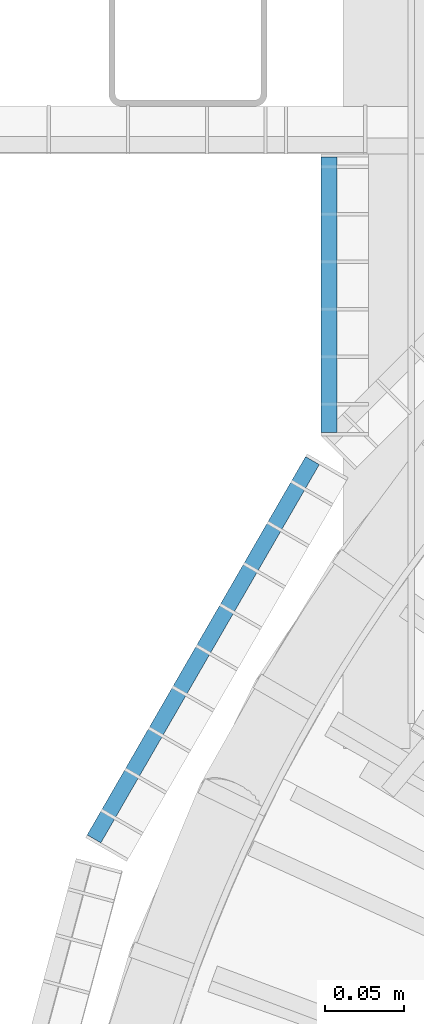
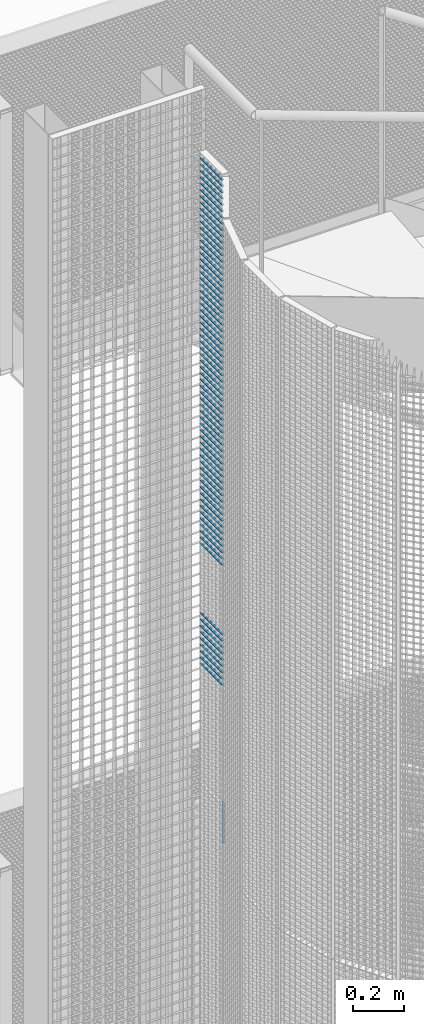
# One storey, part 181 of 1148: 72 beams, 2 elements without a shape of their own.
"""IFC2X3 building model written with IfcOpenShell, lengths in millimetres."""

from ifc_helpers import new_model, si_unit, frame, origin_with_axes, origin_2d_with_axis, place, context, subcontext, project, spatial, rectangle, extrude, material, type_object, element, aggregate, save


model = new_model("IFC2X3")

# Units and contexts
model_context = context("Model", 3, precision=1e-05, world=origin_with_axes())
body_context = subcontext(model_context, "Body", "Model", "MODEL_VIEW")
ifc_project = project(units=[si_unit("LENGTHUNIT", "METRE", prefix="MILLI"), si_unit("AREAUNIT", "SQUARE_METRE"), si_unit("VOLUMEUNIT", "CUBIC_METRE"), si_unit("MASSUNIT", "GRAM", prefix="KILO"), si_unit("TIMEUNIT", "SECOND"), si_unit("PLANEANGLEUNIT", "RADIAN"), si_unit("SOLIDANGLEUNIT", "STERADIAN"), si_unit("THERMODYNAMICTEMPERATUREUNIT", "DEGREE_CELSIUS"), si_unit("LUMINOUSINTENSITYUNIT", "LUMEN")], contexts=[model_context])

# Site, building, storey
site_placement = place(None, origin_with_axes())
site = spatial("IfcSite", under=ifc_project, at=site_placement, Name="Undefined", CompositionType="ELEMENT")
building_placement = place(site_placement, origin_with_axes())
building = spatial("IfcBuilding", under=site, at=building_placement, Name="Undefined", CompositionType="ELEMENT")
storey_placement = place(building_placement, origin_with_axes())
storey = spatial("IfcBuildingStorey", under=building, at=storey_placement, Name="Undefined", CompositionType="ELEMENT", Elevation=0.0)

# Assembly, beam
assembly_1_placement = place(storey_placement, origin_with_axes())
assembly_1 = element("IfcElementAssembly", 1, at=assembly_1_placement, inside=storey, Name="BORDURE", AssemblyPlace="NOTDEFINED", PredefinedType="NOTDEFINED")
ifc_material = material(Name="STEEL/S235JR")
beam_type = type_object("IfcBeamType", Name="PL2*10", PredefinedType="NOTDEFINED")
beam_1_placement = place(assembly_1_placement, frame((-895.30396491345, 676.248044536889, 15030.0), z_axis=(-0.866025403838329, 0.499999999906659, 0.0), x_axis=(-0.49999999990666, -0.866025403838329, 0.0)))
beam_1 = element("IfcBeam", 2, at=beam_1_placement, type_object=beam_type, material=ifc_material, Name="ENTRETOISE", context=body_context, shape_type="SweptSolid", body=[
    extrude(rectangle(XDim=2.0, YDim=10.0, at=origin_2d_with_axis()), frame((275.999999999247, 9.09494701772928e-13, 1.53210777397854e-14), z_axis=(-1.0, 0.0, 0.0), x_axis=(0.0, -1.0, 0.0)), (0.0, 0.0, 1.0), 276.0),
])
aggregate(assembly_1, [beam_1])

# Assembly, beams
assembly_2_placement = place(storey_placement, origin_with_axes())
assembly_2 = element("IfcElementAssembly", 3, at=assembly_2_placement, inside=storey, Name="BORDURE", AssemblyPlace="NOTDEFINED", PredefinedType="NOTDEFINED")
beam_2_placement = place(assembly_2_placement, frame((-884.882567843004, 867.997017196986, 17970.0), z_axis=(-1.0, 0.0, 0.0), x_axis=(0.0, -1.0, 0.0)))
beam_2 = element("IfcBeam", 4, at=beam_2_placement, type_object=beam_type, material=ifc_material, Name="ENTRETOISE", context=body_context, shape_type="SweptSolid", body=[
    extrude(rectangle(XDim=2.0, YDim=10.0, at=origin_2d_with_axis()), frame((174.109999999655, 0.0, 0.0), z_axis=(-1.0, 0.0, 0.0), x_axis=(0.0, -1.0, 0.0)), (0.0, 0.0, 1.0), 174.11),
])
beam_3_placement = place(assembly_2_placement, frame((-884.882567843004, 867.997017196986, 17940.0), z_axis=(-1.0, 0.0, 0.0), x_axis=(0.0, -1.0, 0.0)))
beam_3 = element("IfcBeam", 5, at=beam_3_placement, type_object=beam_type, material=ifc_material, Name="ENTRETOISE", context=body_context, shape_type="SweptSolid", body=[
    extrude(rectangle(XDim=2.0, YDim=10.0, at=origin_2d_with_axis()), frame((174.109999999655, 0.0, 0.0), z_axis=(-1.0, 0.0, 0.0), x_axis=(0.0, -1.0, 0.0)), (0.0, 0.0, 1.0), 174.11),
])
beam_4_placement = place(assembly_2_placement, frame((-884.882567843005, 867.997017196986, 17910.0), z_axis=(-1.0, 0.0, 0.0), x_axis=(0.0, -1.0, 0.0)))
beam_4 = element("IfcBeam", 6, at=beam_4_placement, type_object=beam_type, material=ifc_material, Name="ENTRETOISE", context=body_context, shape_type="SweptSolid", body=[
    extrude(rectangle(XDim=2.0, YDim=10.0, at=origin_2d_with_axis()), frame((174.109999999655, 0.0, 0.0), z_axis=(-1.0, 0.0, 0.0), x_axis=(0.0, -1.0, 0.0)), (0.0, 0.0, 1.0), 174.11),
])
beam_5_placement = place(assembly_2_placement, frame((-884.882567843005, 867.997017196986, 17880.0), z_axis=(-1.0, 0.0, 0.0), x_axis=(0.0, -1.0, 0.0)))
beam_5 = element("IfcBeam", 7, at=beam_5_placement, type_object=beam_type, material=ifc_material, Name="ENTRETOISE", context=body_context, shape_type="SweptSolid", body=[
    extrude(rectangle(XDim=2.0, YDim=10.0, at=origin_2d_with_axis()), frame((174.109999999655, 0.0, 0.0), z_axis=(-1.0, 0.0, 0.0), x_axis=(0.0, -1.0, 0.0)), (0.0, 0.0, 1.0), 174.11),
])
beam_6_placement = place(assembly_2_placement, frame((-884.882567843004, 867.997017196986, 17850.0), z_axis=(-1.0, 0.0, 0.0), x_axis=(0.0, -1.0, 0.0)))
beam_6 = element("IfcBeam", 8, at=beam_6_placement, type_object=beam_type, material=ifc_material, Name="ENTRETOISE", context=body_context, shape_type="SweptSolid", body=[
    extrude(rectangle(XDim=2.0, YDim=10.0, at=origin_2d_with_axis()), frame((174.109999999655, 0.0, 0.0), z_axis=(-1.0, 0.0, 0.0), x_axis=(0.0, -1.0, 0.0)), (0.0, 0.0, 1.0), 174.11),
])
beam_7_placement = place(assembly_2_placement, frame((-884.882567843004, 867.997017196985, 17820.0), z_axis=(-1.0, 0.0, 0.0), x_axis=(0.0, -1.0, 0.0)))
beam_7 = element("IfcBeam", 9, at=beam_7_placement, type_object=beam_type, material=ifc_material, Name="ENTRETOISE", context=body_context, shape_type="SweptSolid", body=[
    extrude(rectangle(XDim=2.0, YDim=10.0, at=origin_2d_with_axis()), frame((174.109999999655, 0.0, 0.0), z_axis=(-1.0, 0.0, 0.0), x_axis=(0.0, -1.0, 0.0)), (0.0, 0.0, 1.0), 174.11),
])
beam_8_placement = place(assembly_2_placement, frame((-884.882567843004, 867.997017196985, 17790.0), z_axis=(-1.0, 0.0, 0.0), x_axis=(0.0, -1.0, 0.0)))
beam_8 = element("IfcBeam", 10, at=beam_8_placement, type_object=beam_type, material=ifc_material, Name="ENTRETOISE", context=body_context, shape_type="SweptSolid", body=[
    extrude(rectangle(XDim=2.0, YDim=10.0, at=origin_2d_with_axis()), frame((174.109999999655, 0.0, 0.0), z_axis=(-1.0, 0.0, 0.0), x_axis=(0.0, -1.0, 0.0)), (0.0, 0.0, 1.0), 174.11),
])
beam_9_placement = place(assembly_2_placement, frame((-884.882567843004, 867.997017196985, 17760.0), z_axis=(-1.0, 0.0, 0.0), x_axis=(0.0, -1.0, 0.0)))
beam_9 = element("IfcBeam", 11, at=beam_9_placement, type_object=beam_type, material=ifc_material, Name="ENTRETOISE", context=body_context, shape_type="SweptSolid", body=[
    extrude(rectangle(XDim=2.0, YDim=10.0, at=origin_2d_with_axis()), frame((174.109999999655, 0.0, 0.0), z_axis=(-1.0, 0.0, 0.0), x_axis=(0.0, -1.0, 0.0)), (0.0, 0.0, 1.0), 174.11),
])
beam_10_placement = place(assembly_2_placement, frame((-884.882567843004, 867.997017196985, 17730.0), z_axis=(-1.0, 0.0, 0.0), x_axis=(0.0, -1.0, 0.0)))
beam_10 = element("IfcBeam", 12, at=beam_10_placement, type_object=beam_type, material=ifc_material, Name="ENTRETOISE", context=body_context, shape_type="SweptSolid", body=[
    extrude(rectangle(XDim=2.0, YDim=10.0, at=origin_2d_with_axis()), frame((174.109999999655, 0.0, 0.0), z_axis=(-1.0, 0.0, 0.0), x_axis=(0.0, -1.0, 0.0)), (0.0, 0.0, 1.0), 174.11),
])
beam_11_placement = place(assembly_2_placement, frame((-884.882567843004, 867.997017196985, 17700.0), z_axis=(-1.0, 0.0, 0.0), x_axis=(0.0, -1.0, 0.0)))
beam_11 = element("IfcBeam", 13, at=beam_11_placement, type_object=beam_type, material=ifc_material, Name="ENTRETOISE", context=body_context, shape_type="SweptSolid", body=[
    extrude(rectangle(XDim=2.0, YDim=10.0, at=origin_2d_with_axis()), frame((174.109999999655, 0.0, 0.0), z_axis=(-1.0, 0.0, 0.0), x_axis=(0.0, -1.0, 0.0)), (0.0, 0.0, 1.0), 174.11),
])
beam_12_placement = place(assembly_2_placement, frame((-884.882567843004, 867.997017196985, 17670.0), z_axis=(-1.0, 0.0, 0.0), x_axis=(0.0, -1.0, 0.0)))
beam_12 = element("IfcBeam", 14, at=beam_12_placement, type_object=beam_type, material=ifc_material, Name="ENTRETOISE", context=body_context, shape_type="SweptSolid", body=[
    extrude(rectangle(XDim=2.0, YDim=10.0, at=origin_2d_with_axis()), frame((174.109999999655, 0.0, 0.0), z_axis=(-1.0, 0.0, 0.0), x_axis=(0.0, -1.0, 0.0)), (0.0, 0.0, 1.0), 174.11),
])
beam_13_placement = place(assembly_2_placement, frame((-884.882567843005, 867.997017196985, 17640.0), z_axis=(-1.0, 0.0, 0.0), x_axis=(0.0, -1.0, 0.0)))
beam_13 = element("IfcBeam", 15, at=beam_13_placement, type_object=beam_type, material=ifc_material, Name="ENTRETOISE", context=body_context, shape_type="SweptSolid", body=[
    extrude(rectangle(XDim=2.0, YDim=10.0, at=origin_2d_with_axis()), frame((174.109999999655, 0.0, 0.0), z_axis=(-1.0, 0.0, 0.0), x_axis=(0.0, -1.0, 0.0)), (0.0, 0.0, 1.0), 174.11),
])
beam_14_placement = place(assembly_2_placement, frame((-884.882567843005, 867.997017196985, 17610.0), z_axis=(-1.0, 0.0, 0.0), x_axis=(0.0, -1.0, 0.0)))
beam_14 = element("IfcBeam", 16, at=beam_14_placement, type_object=beam_type, material=ifc_material, Name="ENTRETOISE", context=body_context, shape_type="SweptSolid", body=[
    extrude(rectangle(XDim=2.0, YDim=10.0, at=origin_2d_with_axis()), frame((174.109999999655, 0.0, 0.0), z_axis=(-1.0, 0.0, 0.0), x_axis=(0.0, -1.0, 0.0)), (0.0, 0.0, 1.0), 174.11),
])
beam_15_placement = place(assembly_2_placement, frame((-884.882567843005, 867.997017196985, 17580.0), z_axis=(-1.0, 0.0, 0.0), x_axis=(0.0, -1.0, 0.0)))
beam_15 = element("IfcBeam", 17, at=beam_15_placement, type_object=beam_type, material=ifc_material, Name="ENTRETOISE", context=body_context, shape_type="SweptSolid", body=[
    extrude(rectangle(XDim=2.0, YDim=10.0, at=origin_2d_with_axis()), frame((174.109999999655, 0.0, 0.0), z_axis=(-1.0, 0.0, 0.0), x_axis=(0.0, -1.0, 0.0)), (0.0, 0.0, 1.0), 174.11),
])
beam_16_placement = place(assembly_2_placement, frame((-884.882567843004, 867.997017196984, 17550.0), z_axis=(-1.0, 0.0, 0.0), x_axis=(0.0, -1.0, 0.0)))
beam_16 = element("IfcBeam", 18, at=beam_16_placement, type_object=beam_type, material=ifc_material, Name="ENTRETOISE", context=body_context, shape_type="SweptSolid", body=[
    extrude(rectangle(XDim=2.0, YDim=10.0, at=origin_2d_with_axis()), frame((174.109999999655, 0.0, 0.0), z_axis=(-1.0, 0.0, 0.0), x_axis=(0.0, -1.0, 0.0)), (0.0, 0.0, 1.0), 174.11),
])
beam_17_placement = place(assembly_2_placement, frame((-884.882567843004, 867.997017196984, 17520.0), z_axis=(-1.0, 0.0, 0.0), x_axis=(0.0, -1.0, 0.0)))
beam_17 = element("IfcBeam", 19, at=beam_17_placement, type_object=beam_type, material=ifc_material, Name="ENTRETOISE", context=body_context, shape_type="SweptSolid", body=[
    extrude(rectangle(XDim=2.0, YDim=10.0, at=origin_2d_with_axis()), frame((174.109999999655, 0.0, 0.0), z_axis=(-1.0, 0.0, 0.0), x_axis=(0.0, -1.0, 0.0)), (0.0, 0.0, 1.0), 174.11),
])
beam_18_placement = place(assembly_2_placement, frame((-884.882567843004, 867.997017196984, 17490.0), z_axis=(-1.0, 0.0, 0.0), x_axis=(0.0, -1.0, 0.0)))
beam_18 = element("IfcBeam", 20, at=beam_18_placement, type_object=beam_type, material=ifc_material, Name="ENTRETOISE", context=body_context, shape_type="SweptSolid", body=[
    extrude(rectangle(XDim=2.0, YDim=10.0, at=origin_2d_with_axis()), frame((174.109999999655, 0.0, 0.0), z_axis=(-1.0, 0.0, 0.0), x_axis=(0.0, -1.0, 0.0)), (0.0, 0.0, 1.0), 174.11),
])
beam_19_placement = place(assembly_2_placement, frame((-884.882567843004, 867.997017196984, 17460.0), z_axis=(-1.0, 0.0, 0.0), x_axis=(0.0, -1.0, 0.0)))
beam_19 = element("IfcBeam", 21, at=beam_19_placement, type_object=beam_type, material=ifc_material, Name="ENTRETOISE", context=body_context, shape_type="SweptSolid", body=[
    extrude(rectangle(XDim=2.0, YDim=10.0, at=origin_2d_with_axis()), frame((174.109999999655, 0.0, 0.0), z_axis=(-1.0, 0.0, 0.0), x_axis=(0.0, -1.0, 0.0)), (0.0, 0.0, 1.0), 174.11),
])
beam_20_placement = place(assembly_2_placement, frame((-884.882567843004, 867.997017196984, 17430.0), z_axis=(-1.0, 0.0, 0.0), x_axis=(0.0, -1.0, 0.0)))
beam_20 = element("IfcBeam", 22, at=beam_20_placement, type_object=beam_type, material=ifc_material, Name="ENTRETOISE", context=body_context, shape_type="SweptSolid", body=[
    extrude(rectangle(XDim=2.0, YDim=10.0, at=origin_2d_with_axis()), frame((174.109999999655, 0.0, 0.0), z_axis=(-1.0, 0.0, 0.0), x_axis=(0.0, -1.0, 0.0)), (0.0, 0.0, 1.0), 174.11),
])
beam_21_placement = place(assembly_2_placement, frame((-884.882567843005, 867.997017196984, 17400.0), z_axis=(-1.0, 0.0, 0.0), x_axis=(0.0, -1.0, 0.0)))
beam_21 = element("IfcBeam", 23, at=beam_21_placement, type_object=beam_type, material=ifc_material, Name="ENTRETOISE", context=body_context, shape_type="SweptSolid", body=[
    extrude(rectangle(XDim=2.0, YDim=10.0, at=origin_2d_with_axis()), frame((174.109999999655, 0.0, 0.0), z_axis=(-1.0, 0.0, 0.0), x_axis=(0.0, -1.0, 0.0)), (0.0, 0.0, 1.0), 174.11),
])
beam_22_placement = place(assembly_2_placement, frame((-884.882567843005, 867.997017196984, 17370.0), z_axis=(-1.0, 0.0, 0.0), x_axis=(0.0, -1.0, 0.0)))
beam_22 = element("IfcBeam", 24, at=beam_22_placement, type_object=beam_type, material=ifc_material, Name="ENTRETOISE", context=body_context, shape_type="SweptSolid", body=[
    extrude(rectangle(XDim=2.0, YDim=10.0, at=origin_2d_with_axis()), frame((174.109999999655, 0.0, 0.0), z_axis=(-1.0, 0.0, 0.0), x_axis=(0.0, -1.0, 0.0)), (0.0, 0.0, 1.0), 174.11),
])
beam_23_placement = place(assembly_2_placement, frame((-884.882567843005, 867.997017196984, 17340.0), z_axis=(-1.0, 0.0, 0.0), x_axis=(0.0, -1.0, 0.0)))
beam_23 = element("IfcBeam", 25, at=beam_23_placement, type_object=beam_type, material=ifc_material, Name="ENTRETOISE", context=body_context, shape_type="SweptSolid", body=[
    extrude(rectangle(XDim=2.0, YDim=10.0, at=origin_2d_with_axis()), frame((174.109999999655, 0.0, 0.0), z_axis=(-1.0, 0.0, 0.0), x_axis=(0.0, -1.0, 0.0)), (0.0, 0.0, 1.0), 174.11),
])
beam_24_placement = place(assembly_2_placement, frame((-884.882567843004, 867.997017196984, 17310.0), z_axis=(-1.0, 0.0, 0.0), x_axis=(0.0, -1.0, 0.0)))
beam_24 = element("IfcBeam", 26, at=beam_24_placement, type_object=beam_type, material=ifc_material, Name="ENTRETOISE", context=body_context, shape_type="SweptSolid", body=[
    extrude(rectangle(XDim=2.0, YDim=10.0, at=origin_2d_with_axis()), frame((174.109999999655, 0.0, 0.0), z_axis=(-1.0, 0.0, 0.0), x_axis=(0.0, -1.0, 0.0)), (0.0, 0.0, 1.0), 174.11),
])
beam_25_placement = place(assembly_2_placement, frame((-884.882567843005, 867.997017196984, 17280.0), z_axis=(-1.0, 0.0, 0.0), x_axis=(0.0, -1.0, 0.0)))
beam_25 = element("IfcBeam", 27, at=beam_25_placement, type_object=beam_type, material=ifc_material, Name="ENTRETOISE", context=body_context, shape_type="SweptSolid", body=[
    extrude(rectangle(XDim=2.0, YDim=10.0, at=origin_2d_with_axis()), frame((174.109999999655, 0.0, 0.0), z_axis=(-1.0, 0.0, 0.0), x_axis=(0.0, -1.0, 0.0)), (0.0, 0.0, 1.0), 174.11),
])
beam_26_placement = place(assembly_2_placement, frame((-884.882567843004, 867.997017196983, 17250.0), z_axis=(-1.0, 0.0, 0.0), x_axis=(0.0, -1.0, 0.0)))
beam_26 = element("IfcBeam", 28, at=beam_26_placement, type_object=beam_type, material=ifc_material, Name="ENTRETOISE", context=body_context, shape_type="SweptSolid", body=[
    extrude(rectangle(XDim=2.0, YDim=10.0, at=origin_2d_with_axis()), frame((174.109999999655, 0.0, 0.0), z_axis=(-1.0, 0.0, 0.0), x_axis=(0.0, -1.0, 0.0)), (0.0, 0.0, 1.0), 174.11),
])
beam_27_placement = place(assembly_2_placement, frame((-884.882567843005, 867.997017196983, 17220.0), z_axis=(-1.0, 0.0, 0.0), x_axis=(0.0, -1.0, 0.0)))
beam_27 = element("IfcBeam", 29, at=beam_27_placement, type_object=beam_type, material=ifc_material, Name="ENTRETOISE", context=body_context, shape_type="SweptSolid", body=[
    extrude(rectangle(XDim=2.0, YDim=10.0, at=origin_2d_with_axis()), frame((174.109999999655, 0.0, 0.0), z_axis=(-1.0, 0.0, 0.0), x_axis=(0.0, -1.0, 0.0)), (0.0, 0.0, 1.0), 174.11),
])
beam_28_placement = place(assembly_2_placement, frame((-884.882567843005, 867.997017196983, 17190.0), z_axis=(-1.0, 0.0, 0.0), x_axis=(0.0, -1.0, 0.0)))
beam_28 = element("IfcBeam", 30, at=beam_28_placement, type_object=beam_type, material=ifc_material, Name="ENTRETOISE", context=body_context, shape_type="SweptSolid", body=[
    extrude(rectangle(XDim=2.0, YDim=10.0, at=origin_2d_with_axis()), frame((174.109999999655, 0.0, 0.0), z_axis=(-1.0, 0.0, 0.0), x_axis=(0.0, -1.0, 0.0)), (0.0, 0.0, 1.0), 174.11),
])
beam_29_placement = place(assembly_2_placement, frame((-884.882567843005, 867.997017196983, 17160.0), z_axis=(-1.0, 0.0, 0.0), x_axis=(0.0, -1.0, 0.0)))
beam_29 = element("IfcBeam", 31, at=beam_29_placement, type_object=beam_type, material=ifc_material, Name="ENTRETOISE", context=body_context, shape_type="SweptSolid", body=[
    extrude(rectangle(XDim=2.0, YDim=10.0, at=origin_2d_with_axis()), frame((174.109999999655, 0.0, 0.0), z_axis=(-1.0, 0.0, 0.0), x_axis=(0.0, -1.0, 0.0)), (0.0, 0.0, 1.0), 174.11),
])
beam_30_placement = place(assembly_2_placement, frame((-884.882567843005, 867.997017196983, 17130.0), z_axis=(-1.0, 0.0, 0.0), x_axis=(0.0, -1.0, 0.0)))
beam_30 = element("IfcBeam", 32, at=beam_30_placement, type_object=beam_type, material=ifc_material, Name="ENTRETOISE", context=body_context, shape_type="SweptSolid", body=[
    extrude(rectangle(XDim=2.0, YDim=10.0, at=origin_2d_with_axis()), frame((174.109999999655, 0.0, 0.0), z_axis=(-1.0, 0.0, 0.0), x_axis=(0.0, -1.0, 0.0)), (0.0, 0.0, 1.0), 174.11),
])
beam_31_placement = place(assembly_2_placement, frame((-884.882567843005, 867.997017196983, 17100.0), z_axis=(-1.0, 0.0, 0.0), x_axis=(0.0, -1.0, 0.0)))
beam_31 = element("IfcBeam", 33, at=beam_31_placement, type_object=beam_type, material=ifc_material, Name="ENTRETOISE", context=body_context, shape_type="SweptSolid", body=[
    extrude(rectangle(XDim=2.0, YDim=10.0, at=origin_2d_with_axis()), frame((174.109999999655, 0.0, 0.0), z_axis=(-1.0, 0.0, 0.0), x_axis=(0.0, -1.0, 0.0)), (0.0, 0.0, 1.0), 174.11),
])
beam_32_placement = place(assembly_2_placement, frame((-884.882567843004, 867.997017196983, 17070.0), z_axis=(-1.0, 0.0, 0.0), x_axis=(0.0, -1.0, 0.0)))
beam_32 = element("IfcBeam", 34, at=beam_32_placement, type_object=beam_type, material=ifc_material, Name="ENTRETOISE", context=body_context, shape_type="SweptSolid", body=[
    extrude(rectangle(XDim=2.0, YDim=10.0, at=origin_2d_with_axis()), frame((174.109999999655, 0.0, 0.0), z_axis=(-1.0, 0.0, 0.0), x_axis=(0.0, -1.0, 0.0)), (0.0, 0.0, 1.0), 174.11),
])
beam_33_placement = place(assembly_2_placement, frame((-884.882567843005, 867.997017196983, 17040.0), z_axis=(-1.0, 0.0, 0.0), x_axis=(0.0, -1.0, 0.0)))
beam_33 = element("IfcBeam", 35, at=beam_33_placement, type_object=beam_type, material=ifc_material, Name="ENTRETOISE", context=body_context, shape_type="SweptSolid", body=[
    extrude(rectangle(XDim=2.0, YDim=10.0, at=origin_2d_with_axis()), frame((174.109999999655, 0.0, 0.0), z_axis=(-1.0, 0.0, 0.0), x_axis=(0.0, -1.0, 0.0)), (0.0, 0.0, 1.0), 174.11),
])
beam_34_placement = place(assembly_2_placement, frame((-884.882567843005, 867.997017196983, 17010.0), z_axis=(-1.0, 0.0, 0.0), x_axis=(0.0, -1.0, 0.0)))
beam_34 = element("IfcBeam", 36, at=beam_34_placement, type_object=beam_type, material=ifc_material, Name="ENTRETOISE", context=body_context, shape_type="SweptSolid", body=[
    extrude(rectangle(XDim=2.0, YDim=10.0, at=origin_2d_with_axis()), frame((174.109999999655, 0.0, 0.0), z_axis=(-1.0, 0.0, 0.0), x_axis=(0.0, -1.0, 0.0)), (0.0, 0.0, 1.0), 174.11),
])
beam_35_placement = place(assembly_2_placement, frame((-884.882567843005, 867.997017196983, 16980.0), z_axis=(-1.0, 0.0, 0.0), x_axis=(0.0, -1.0, 0.0)))
beam_35 = element("IfcBeam", 37, at=beam_35_placement, type_object=beam_type, material=ifc_material, Name="ENTRETOISE", context=body_context, shape_type="SweptSolid", body=[
    extrude(rectangle(XDim=2.0, YDim=10.0, at=origin_2d_with_axis()), frame((174.109999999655, 0.0, 0.0), z_axis=(-1.0, 0.0, 0.0), x_axis=(0.0, -1.0, 0.0)), (0.0, 0.0, 1.0), 174.11),
])
beam_36_placement = place(assembly_2_placement, frame((-884.882567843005, 867.997017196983, 16950.0), z_axis=(-1.0, 0.0, 0.0), x_axis=(0.0, -1.0, 0.0)))
beam_36 = element("IfcBeam", 38, at=beam_36_placement, type_object=beam_type, material=ifc_material, Name="ENTRETOISE", context=body_context, shape_type="SweptSolid", body=[
    extrude(rectangle(XDim=2.0, YDim=10.0, at=origin_2d_with_axis()), frame((174.109999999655, 0.0, 0.0), z_axis=(-1.0, 0.0, 0.0), x_axis=(0.0, -1.0, 0.0)), (0.0, 0.0, 1.0), 174.11),
])
beam_37_placement = place(assembly_2_placement, frame((-884.882567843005, 867.997017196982, 16920.0), z_axis=(-1.0, 0.0, 0.0), x_axis=(0.0, -1.0, 0.0)))
beam_37 = element("IfcBeam", 39, at=beam_37_placement, type_object=beam_type, material=ifc_material, Name="ENTRETOISE", context=body_context, shape_type="SweptSolid", body=[
    extrude(rectangle(XDim=2.0, YDim=10.0, at=origin_2d_with_axis()), frame((174.109999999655, 0.0, 0.0), z_axis=(-1.0, 0.0, 0.0), x_axis=(0.0, -1.0, 0.0)), (0.0, 0.0, 1.0), 174.11),
])
beam_38_placement = place(assembly_2_placement, frame((-884.882567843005, 867.997017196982, 16890.0), z_axis=(-1.0, 0.0, 0.0), x_axis=(0.0, -1.0, 0.0)))
beam_38 = element("IfcBeam", 40, at=beam_38_placement, type_object=beam_type, material=ifc_material, Name="ENTRETOISE", context=body_context, shape_type="SweptSolid", body=[
    extrude(rectangle(XDim=2.0, YDim=10.0, at=origin_2d_with_axis()), frame((174.109999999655, 0.0, 0.0), z_axis=(-1.0, 0.0, 0.0), x_axis=(0.0, -1.0, 0.0)), (0.0, 0.0, 1.0), 174.11),
])
beam_39_placement = place(assembly_2_placement, frame((-884.882567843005, 867.997017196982, 16860.0), z_axis=(-1.0, 0.0, 0.0), x_axis=(0.0, -1.0, 0.0)))
beam_39 = element("IfcBeam", 41, at=beam_39_placement, type_object=beam_type, material=ifc_material, Name="ENTRETOISE", context=body_context, shape_type="SweptSolid", body=[
    extrude(rectangle(XDim=2.0, YDim=10.0, at=origin_2d_with_axis()), frame((174.109999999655, 0.0, 0.0), z_axis=(-1.0, 0.0, 0.0), x_axis=(0.0, -1.0, 0.0)), (0.0, 0.0, 1.0), 174.11),
])
beam_40_placement = place(assembly_2_placement, frame((-884.882567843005, 867.997017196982, 16830.0), z_axis=(-1.0, 0.0, 0.0), x_axis=(0.0, -1.0, 0.0)))
beam_40 = element("IfcBeam", 42, at=beam_40_placement, type_object=beam_type, material=ifc_material, Name="ENTRETOISE", context=body_context, shape_type="SweptSolid", body=[
    extrude(rectangle(XDim=2.0, YDim=10.0, at=origin_2d_with_axis()), frame((174.109999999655, 0.0, 0.0), z_axis=(-1.0, 0.0, 0.0), x_axis=(0.0, -1.0, 0.0)), (0.0, 0.0, 1.0), 174.11),
])
beam_41_placement = place(assembly_2_placement, frame((-884.882567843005, 867.997017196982, 16800.0), z_axis=(-1.0, 0.0, 0.0), x_axis=(0.0, -1.0, 0.0)))
beam_41 = element("IfcBeam", 43, at=beam_41_placement, type_object=beam_type, material=ifc_material, Name="ENTRETOISE", context=body_context, shape_type="SweptSolid", body=[
    extrude(rectangle(XDim=2.0, YDim=10.0, at=origin_2d_with_axis()), frame((174.109999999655, 0.0, 0.0), z_axis=(-1.0, 0.0, 0.0), x_axis=(0.0, -1.0, 0.0)), (0.0, 0.0, 1.0), 174.11),
])
beam_42_placement = place(assembly_2_placement, frame((-884.882567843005, 867.997017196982, 16770.0), z_axis=(-1.0, 0.0, 0.0), x_axis=(0.0, -1.0, 0.0)))
beam_42 = element("IfcBeam", 44, at=beam_42_placement, type_object=beam_type, material=ifc_material, Name="ENTRETOISE", context=body_context, shape_type="SweptSolid", body=[
    extrude(rectangle(XDim=2.0, YDim=10.0, at=origin_2d_with_axis()), frame((174.109999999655, 0.0, 0.0), z_axis=(-1.0, 0.0, 0.0), x_axis=(0.0, -1.0, 0.0)), (0.0, 0.0, 1.0), 174.11),
])
beam_43_placement = place(assembly_2_placement, frame((-884.882567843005, 867.997017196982, 16740.0), z_axis=(-1.0, 0.0, 0.0), x_axis=(0.0, -1.0, 0.0)))
beam_43 = element("IfcBeam", 45, at=beam_43_placement, type_object=beam_type, material=ifc_material, Name="ENTRETOISE", context=body_context, shape_type="SweptSolid", body=[
    extrude(rectangle(XDim=2.0, YDim=10.0, at=origin_2d_with_axis()), frame((174.109999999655, 0.0, 0.0), z_axis=(-1.0, 0.0, 0.0), x_axis=(0.0, -1.0, 0.0)), (0.0, 0.0, 1.0), 174.11),
])
beam_44_placement = place(assembly_2_placement, frame((-884.882567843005, 867.997017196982, 16710.0), z_axis=(-1.0, 0.0, 0.0), x_axis=(0.0, -1.0, 0.0)))
beam_44 = element("IfcBeam", 46, at=beam_44_placement, type_object=beam_type, material=ifc_material, Name="ENTRETOISE", context=body_context, shape_type="SweptSolid", body=[
    extrude(rectangle(XDim=2.0, YDim=10.0, at=origin_2d_with_axis()), frame((174.109999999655, 0.0, 0.0), z_axis=(-1.0, 0.0, 0.0), x_axis=(0.0, -1.0, 0.0)), (0.0, 0.0, 1.0), 174.11),
])
beam_45_placement = place(assembly_2_placement, frame((-884.882567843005, 867.997017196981, 16680.0), z_axis=(-1.0, 0.0, 0.0), x_axis=(0.0, -1.0, 0.0)))
beam_45 = element("IfcBeam", 47, at=beam_45_placement, type_object=beam_type, material=ifc_material, Name="ENTRETOISE", context=body_context, shape_type="SweptSolid", body=[
    extrude(rectangle(XDim=2.0, YDim=10.0, at=origin_2d_with_axis()), frame((174.109999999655, 0.0, 0.0), z_axis=(-1.0, 0.0, 0.0), x_axis=(0.0, -1.0, 0.0)), (0.0, 0.0, 1.0), 174.11),
])
beam_46_placement = place(assembly_2_placement, frame((-884.882567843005, 867.997017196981, 16650.0), z_axis=(-1.0, 0.0, 0.0), x_axis=(0.0, -1.0, 0.0)))
beam_46 = element("IfcBeam", 48, at=beam_46_placement, type_object=beam_type, material=ifc_material, Name="ENTRETOISE", context=body_context, shape_type="SweptSolid", body=[
    extrude(rectangle(XDim=2.0, YDim=10.0, at=origin_2d_with_axis()), frame((174.109999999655, 0.0, 0.0), z_axis=(-1.0, 0.0, 0.0), x_axis=(0.0, -1.0, 0.0)), (0.0, 0.0, 1.0), 174.11),
])
beam_47_placement = place(assembly_2_placement, frame((-884.882567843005, 867.997017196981, 16620.0), z_axis=(-1.0, 0.0, 0.0), x_axis=(0.0, -1.0, 0.0)))
beam_47 = element("IfcBeam", 49, at=beam_47_placement, type_object=beam_type, material=ifc_material, Name="ENTRETOISE", context=body_context, shape_type="SweptSolid", body=[
    extrude(rectangle(XDim=2.0, YDim=10.0, at=origin_2d_with_axis()), frame((174.109999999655, 0.0, 0.0), z_axis=(-1.0, 0.0, 0.0), x_axis=(0.0, -1.0, 0.0)), (0.0, 0.0, 1.0), 174.11),
])
beam_48_placement = place(assembly_2_placement, frame((-884.882567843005, 867.997017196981, 16590.0), z_axis=(-1.0, 0.0, 0.0), x_axis=(0.0, -1.0, 0.0)))
beam_48 = element("IfcBeam", 50, at=beam_48_placement, type_object=beam_type, material=ifc_material, Name="ENTRETOISE", context=body_context, shape_type="SweptSolid", body=[
    extrude(rectangle(XDim=2.0, YDim=10.0, at=origin_2d_with_axis()), frame((174.109999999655, 0.0, 0.0), z_axis=(-1.0, 0.0, 0.0), x_axis=(0.0, -1.0, 0.0)), (0.0, 0.0, 1.0), 174.11),
])
beam_49_placement = place(assembly_2_placement, frame((-884.882567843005, 867.997017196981, 16560.0), z_axis=(-1.0, 0.0, 0.0), x_axis=(0.0, -1.0, 0.0)))
beam_49 = element("IfcBeam", 51, at=beam_49_placement, type_object=beam_type, material=ifc_material, Name="ENTRETOISE", context=body_context, shape_type="SweptSolid", body=[
    extrude(rectangle(XDim=2.0, YDim=10.0, at=origin_2d_with_axis()), frame((174.109999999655, 0.0, 0.0), z_axis=(-1.0, 0.0, 0.0), x_axis=(0.0, -1.0, 0.0)), (0.0, 0.0, 1.0), 174.11),
])
beam_50_placement = place(assembly_2_placement, frame((-884.882567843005, 867.997017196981, 16530.0), z_axis=(-1.0, 0.0, 0.0), x_axis=(0.0, -1.0, 0.0)))
beam_50 = element("IfcBeam", 52, at=beam_50_placement, type_object=beam_type, material=ifc_material, Name="ENTRETOISE", context=body_context, shape_type="SweptSolid", body=[
    extrude(rectangle(XDim=2.0, YDim=10.0, at=origin_2d_with_axis()), frame((174.109999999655, 0.0, 0.0), z_axis=(-1.0, 0.0, 0.0), x_axis=(0.0, -1.0, 0.0)), (0.0, 0.0, 1.0), 174.11),
])
beam_51_placement = place(assembly_2_placement, frame((-884.882567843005, 867.997017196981, 16500.0), z_axis=(-1.0, 0.0, 0.0), x_axis=(0.0, -1.0, 0.0)))
beam_51 = element("IfcBeam", 53, at=beam_51_placement, type_object=beam_type, material=ifc_material, Name="ENTRETOISE", context=body_context, shape_type="SweptSolid", body=[
    extrude(rectangle(XDim=2.0, YDim=10.0, at=origin_2d_with_axis()), frame((174.109999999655, 0.0, 0.0), z_axis=(-1.0, 0.0, 0.0), x_axis=(0.0, -1.0, 0.0)), (0.0, 0.0, 1.0), 174.11),
])
beam_52_placement = place(assembly_2_placement, frame((-884.882567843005, 867.997017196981, 16470.0), z_axis=(-1.0, 0.0, 0.0), x_axis=(0.0, -1.0, 0.0)))
beam_52 = element("IfcBeam", 54, at=beam_52_placement, type_object=beam_type, material=ifc_material, Name="ENTRETOISE", context=body_context, shape_type="SweptSolid", body=[
    extrude(rectangle(XDim=2.0, YDim=10.0, at=origin_2d_with_axis()), frame((174.109999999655, 0.0, 0.0), z_axis=(-1.0, 0.0, 0.0), x_axis=(0.0, -1.0, 0.0)), (0.0, 0.0, 1.0), 174.11),
])
beam_53_placement = place(assembly_2_placement, frame((-884.882567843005, 867.997017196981, 16440.0), z_axis=(-1.0, 0.0, 0.0), x_axis=(0.0, -1.0, 0.0)))
beam_53 = element("IfcBeam", 55, at=beam_53_placement, type_object=beam_type, material=ifc_material, Name="ENTRETOISE", context=body_context, shape_type="SweptSolid", body=[
    extrude(rectangle(XDim=2.0, YDim=10.0, at=origin_2d_with_axis()), frame((174.109999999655, 0.0, 0.0), z_axis=(-1.0, 0.0, 0.0), x_axis=(0.0, -1.0, 0.0)), (0.0, 0.0, 1.0), 174.11),
])
beam_54_placement = place(assembly_2_placement, frame((-884.882567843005, 867.997017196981, 16410.0), z_axis=(-1.0, 0.0, 0.0), x_axis=(0.0, -1.0, 0.0)))
beam_54 = element("IfcBeam", 56, at=beam_54_placement, type_object=beam_type, material=ifc_material, Name="ENTRETOISE", context=body_context, shape_type="SweptSolid", body=[
    extrude(rectangle(XDim=2.0, YDim=10.0, at=origin_2d_with_axis()), frame((174.109999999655, 0.0, 0.0), z_axis=(-1.0, 0.0, 0.0), x_axis=(0.0, -1.0, 0.0)), (0.0, 0.0, 1.0), 174.11),
])
beam_55_placement = place(assembly_2_placement, frame((-884.882567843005, 867.99701719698, 16380.0), z_axis=(-1.0, 0.0, 0.0), x_axis=(0.0, -1.0, 0.0)))
beam_55 = element("IfcBeam", 57, at=beam_55_placement, type_object=beam_type, material=ifc_material, Name="ENTRETOISE", context=body_context, shape_type="SweptSolid", body=[
    extrude(rectangle(XDim=2.0, YDim=10.0, at=origin_2d_with_axis()), frame((174.109999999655, 0.0, 0.0), z_axis=(-1.0, 0.0, 0.0), x_axis=(0.0, -1.0, 0.0)), (0.0, 0.0, 1.0), 174.11),
])
beam_56_placement = place(assembly_2_placement, frame((-884.882567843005, 867.99701719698, 16350.0), z_axis=(-1.0, 0.0, 0.0), x_axis=(0.0, -1.0, 0.0)))
beam_56 = element("IfcBeam", 58, at=beam_56_placement, type_object=beam_type, material=ifc_material, Name="ENTRETOISE", context=body_context, shape_type="SweptSolid", body=[
    extrude(rectangle(XDim=2.0, YDim=10.0, at=origin_2d_with_axis()), frame((174.109999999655, 0.0, 0.0), z_axis=(-1.0, 0.0, 0.0), x_axis=(0.0, -1.0, 0.0)), (0.0, 0.0, 1.0), 174.11),
])
beam_57_placement = place(assembly_2_placement, frame((-884.882567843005, 867.99701719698, 16320.0), z_axis=(-1.0, 0.0, 0.0), x_axis=(0.0, -1.0, 0.0)))
beam_57 = element("IfcBeam", 59, at=beam_57_placement, type_object=beam_type, material=ifc_material, Name="ENTRETOISE", context=body_context, shape_type="SweptSolid", body=[
    extrude(rectangle(XDim=2.0, YDim=10.0, at=origin_2d_with_axis()), frame((174.109999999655, 0.0, 0.0), z_axis=(-1.0, 0.0, 0.0), x_axis=(0.0, -1.0, 0.0)), (0.0, 0.0, 1.0), 174.11),
])
beam_58_placement = place(assembly_2_placement, frame((-884.882567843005, 867.99701719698, 16290.0), z_axis=(-1.0, 0.0, 0.0), x_axis=(0.0, -1.0, 0.0)))
beam_58 = element("IfcBeam", 60, at=beam_58_placement, type_object=beam_type, material=ifc_material, Name="ENTRETOISE", context=body_context, shape_type="SweptSolid", body=[
    extrude(rectangle(XDim=2.0, YDim=10.0, at=origin_2d_with_axis()), frame((174.109999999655, 0.0, 0.0), z_axis=(-1.0, 0.0, 0.0), x_axis=(0.0, -1.0, 0.0)), (0.0, 0.0, 1.0), 174.11),
])
beam_59_placement = place(assembly_2_placement, frame((-884.882567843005, 867.99701719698, 16260.0), z_axis=(-1.0, 0.0, 0.0), x_axis=(0.0, -1.0, 0.0)))
beam_59 = element("IfcBeam", 61, at=beam_59_placement, type_object=beam_type, material=ifc_material, Name="ENTRETOISE", context=body_context, shape_type="SweptSolid", body=[
    extrude(rectangle(XDim=2.0, YDim=10.0, at=origin_2d_with_axis()), frame((174.109999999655, 0.0, 0.0), z_axis=(-1.0, 0.0, 0.0), x_axis=(0.0, -1.0, 0.0)), (0.0, 0.0, 1.0), 174.11),
])
beam_60_placement = place(assembly_2_placement, frame((-884.882567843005, 867.99701719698, 16230.0), z_axis=(-1.0, 0.0, 0.0), x_axis=(0.0, -1.0, 0.0)))
beam_60 = element("IfcBeam", 62, at=beam_60_placement, type_object=beam_type, material=ifc_material, Name="ENTRETOISE", context=body_context, shape_type="SweptSolid", body=[
    extrude(rectangle(XDim=2.0, YDim=10.0, at=origin_2d_with_axis()), frame((174.109999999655, 0.0, 0.0), z_axis=(-1.0, 0.0, 0.0), x_axis=(0.0, -1.0, 0.0)), (0.0, 0.0, 1.0), 174.11),
])
beam_61_placement = place(assembly_2_placement, frame((-884.882567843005, 867.99701719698, 16200.0), z_axis=(-1.0, 0.0, 0.0), x_axis=(0.0, -1.0, 0.0)))
beam_61 = element("IfcBeam", 63, at=beam_61_placement, type_object=beam_type, material=ifc_material, Name="ENTRETOISE", context=body_context, shape_type="SweptSolid", body=[
    extrude(rectangle(XDim=2.0, YDim=10.0, at=origin_2d_with_axis()), frame((174.109999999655, 0.0, 0.0), z_axis=(-1.0, 0.0, 0.0), x_axis=(0.0, -1.0, 0.0)), (0.0, 0.0, 1.0), 174.11),
])
beam_62_placement = place(assembly_2_placement, frame((-884.882567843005, 867.99701719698, 16170.0), z_axis=(-1.0, 0.0, 0.0), x_axis=(0.0, -1.0, 0.0)))
beam_62 = element("IfcBeam", 64, at=beam_62_placement, type_object=beam_type, material=ifc_material, Name="ENTRETOISE", context=body_context, shape_type="SweptSolid", body=[
    extrude(rectangle(XDim=2.0, YDim=10.0, at=origin_2d_with_axis()), frame((174.109999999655, 0.0, 0.0), z_axis=(-1.0, 0.0, 0.0), x_axis=(0.0, -1.0, 0.0)), (0.0, 0.0, 1.0), 174.11),
])
beam_63_placement = place(assembly_2_placement, frame((-884.882567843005, 867.99701719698, 16140.0), z_axis=(-1.0, 0.0, 0.0), x_axis=(0.0, -1.0, 0.0)))
beam_63 = element("IfcBeam", 65, at=beam_63_placement, type_object=beam_type, material=ifc_material, Name="ENTRETOISE", context=body_context, shape_type="SweptSolid", body=[
    extrude(rectangle(XDim=2.0, YDim=10.0, at=origin_2d_with_axis()), frame((174.109999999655, 0.0, 0.0), z_axis=(-1.0, 0.0, 0.0), x_axis=(0.0, -1.0, 0.0)), (0.0, 0.0, 1.0), 174.11),
])
beam_64_placement = place(assembly_2_placement, frame((-884.882567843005, 867.997017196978, 15720.0), z_axis=(-1.0, 0.0, 0.0), x_axis=(0.0, -1.0, 0.0)))
beam_64 = element("IfcBeam", 66, at=beam_64_placement, type_object=beam_type, material=ifc_material, Name="ENTRETOISE", context=body_context, shape_type="SweptSolid", body=[
    extrude(rectangle(XDim=2.0, YDim=10.0, at=origin_2d_with_axis()), frame((174.109999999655, 0.0, 0.0), z_axis=(-1.0, 0.0, 0.0), x_axis=(0.0, -1.0, 0.0)), (0.0, 0.0, 1.0), 174.11),
])
beam_65_placement = place(assembly_2_placement, frame((-884.882567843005, 867.997017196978, 15690.0), z_axis=(-1.0, 0.0, 0.0), x_axis=(0.0, -1.0, 0.0)))
beam_65 = element("IfcBeam", 67, at=beam_65_placement, type_object=beam_type, material=ifc_material, Name="ENTRETOISE", context=body_context, shape_type="SweptSolid", body=[
    extrude(rectangle(XDim=2.0, YDim=10.0, at=origin_2d_with_axis()), frame((174.109999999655, 0.0, 0.0), z_axis=(-1.0, 0.0, 0.0), x_axis=(0.0, -1.0, 0.0)), (0.0, 0.0, 1.0), 174.11),
])
beam_66_placement = place(assembly_2_placement, frame((-884.882567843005, 867.997017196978, 15750.0), z_axis=(-1.0, 0.0, 0.0), x_axis=(0.0, -1.0, 0.0)))
beam_66 = element("IfcBeam", 68, at=beam_66_placement, type_object=beam_type, material=ifc_material, Name="ENTRETOISE", context=body_context, shape_type="SweptSolid", body=[
    extrude(rectangle(XDim=2.0, YDim=10.0, at=origin_2d_with_axis()), frame((174.109999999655, 0.0, 0.0), z_axis=(-1.0, 0.0, 0.0), x_axis=(0.0, -1.0, 0.0)), (0.0, 0.0, 1.0), 174.11),
])
beam_67_placement = place(assembly_2_placement, frame((-884.882567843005, 867.997017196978, 15660.0), z_axis=(-1.0, 0.0, 0.0), x_axis=(0.0, -1.0, 0.0)))
beam_67 = element("IfcBeam", 69, at=beam_67_placement, type_object=beam_type, material=ifc_material, Name="ENTRETOISE", context=body_context, shape_type="SweptSolid", body=[
    extrude(rectangle(XDim=2.0, YDim=10.0, at=origin_2d_with_axis()), frame((174.109999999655, 0.0, 0.0), z_axis=(-1.0, 0.0, 0.0), x_axis=(0.0, -1.0, 0.0)), (0.0, 0.0, 1.0), 174.11),
])
beam_68_placement = place(assembly_2_placement, frame((-884.882567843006, 867.997017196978, 15630.0), z_axis=(-1.0, 0.0, 0.0), x_axis=(0.0, -1.0, 0.0)))
beam_68 = element("IfcBeam", 70, at=beam_68_placement, type_object=beam_type, material=ifc_material, Name="ENTRETOISE", context=body_context, shape_type="SweptSolid", body=[
    extrude(rectangle(XDim=2.0, YDim=10.0, at=origin_2d_with_axis()), frame((174.109999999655, 0.0, 0.0), z_axis=(-1.0, 0.0, 0.0), x_axis=(0.0, -1.0, 0.0)), (0.0, 0.0, 1.0), 174.11),
])
beam_69_placement = place(assembly_2_placement, frame((-884.882567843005, 867.997017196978, 15780.0), z_axis=(-1.0, 0.0, 0.0), x_axis=(0.0, -1.0, 0.0)))
beam_69 = element("IfcBeam", 71, at=beam_69_placement, type_object=beam_type, material=ifc_material, Name="ENTRETOISE", context=body_context, shape_type="SweptSolid", body=[
    extrude(rectangle(XDim=2.0, YDim=10.0, at=origin_2d_with_axis()), frame((174.109999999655, 0.0, 0.0), z_axis=(-1.0, 0.0, 0.0), x_axis=(0.0, -1.0, 0.0)), (0.0, 0.0, 1.0), 174.11),
])
beam_70_placement = place(assembly_2_placement, frame((-884.882567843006, 867.997017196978, 15600.0), z_axis=(-1.0, 0.0, 0.0), x_axis=(0.0, -1.0, 0.0)))
beam_70 = element("IfcBeam", 72, at=beam_70_placement, type_object=beam_type, material=ifc_material, Name="ENTRETOISE", context=body_context, shape_type="SweptSolid", body=[
    extrude(rectangle(XDim=2.0, YDim=10.0, at=origin_2d_with_axis()), frame((174.109999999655, 0.0, 0.0), z_axis=(-1.0, 0.0, 0.0), x_axis=(0.0, -1.0, 0.0)), (0.0, 0.0, 1.0), 174.11),
])
beam_71_placement = place(assembly_2_placement, frame((-884.882567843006, 867.997017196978, 15810.0), z_axis=(-1.0, 0.0, 0.0), x_axis=(0.0, -1.0, 0.0)))
beam_71 = element("IfcBeam", 73, at=beam_71_placement, type_object=beam_type, material=ifc_material, Name="ENTRETOISE", context=body_context, shape_type="SweptSolid", body=[
    extrude(rectangle(XDim=2.0, YDim=10.0, at=origin_2d_with_axis()), frame((174.109999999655, 0.0, 0.0), z_axis=(-1.0, 0.0, 0.0), x_axis=(0.0, -1.0, 0.0)), (0.0, 0.0, 1.0), 174.11),
])
beam_72_placement = place(assembly_2_placement, frame((-884.882567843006, 867.997017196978, 15570.0), z_axis=(-1.0, 0.0, 0.0), x_axis=(0.0, -1.0, 0.0)))
beam_72 = element("IfcBeam", 74, at=beam_72_placement, type_object=beam_type, material=ifc_material, Name="ENTRETOISE", context=body_context, shape_type="SweptSolid", body=[
    extrude(rectangle(XDim=2.0, YDim=10.0, at=origin_2d_with_axis()), frame((174.109999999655, 0.0, 0.0), z_axis=(-1.0, 0.0, 0.0), x_axis=(0.0, -1.0, 0.0)), (0.0, 0.0, 1.0), 174.11),
])
aggregate(assembly_2, [beam_2, beam_3, beam_4, beam_5, beam_6, beam_7, beam_8, beam_9, beam_10, beam_11, beam_12, beam_13, beam_14, beam_15, beam_16, beam_17, beam_18, beam_19, beam_20, beam_21, beam_22, beam_23, beam_24, beam_25, beam_26, beam_27, beam_28, beam_29, beam_30, beam_31, beam_32, beam_33, beam_34, beam_35, beam_36, beam_37, beam_38, beam_39, beam_40, beam_41, beam_42, beam_43, beam_44, beam_45, beam_46, beam_47, beam_48, beam_49, beam_50, beam_51, beam_52, beam_53, beam_54, beam_55, beam_56, beam_57, beam_58, beam_59, beam_60, beam_61, beam_62, beam_63, beam_64, beam_65, beam_66, beam_67, beam_68, beam_69, beam_70, beam_71, beam_72])

save(model, "model.ifc")
